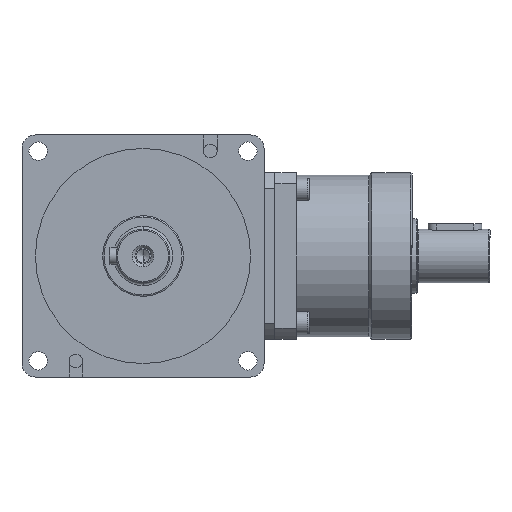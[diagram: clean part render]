
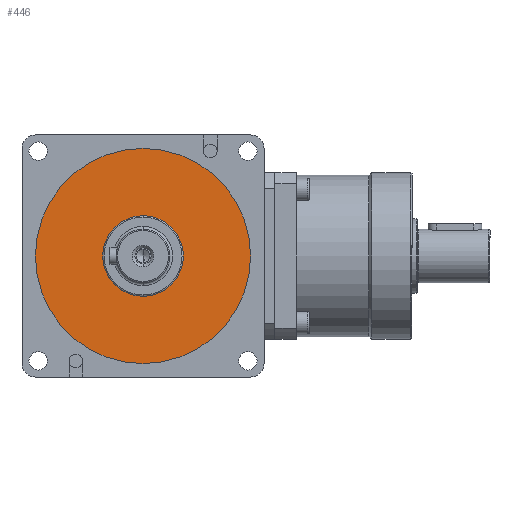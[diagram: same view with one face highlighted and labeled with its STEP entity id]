
A CAD part, left-side view. The second image highlights one B-rep face of the part: STEP entity #446.
In plain terms, the highlighted planar face has unit normal (-1, 0, 0).
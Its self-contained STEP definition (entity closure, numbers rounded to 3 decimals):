
#74 = CARTESIAN_POINT ( 'NONE',  ( -31., 0., 15. ) ) ;
#446 = ADVANCED_FACE ( 'NONE', ( #10385, #6891 ), #11429, .T. ) ;
#1357 = CIRCLE ( 'NONE', #10886, 15. ) ;
#1690 = CIRCLE ( 'NONE', #10034, 15. ) ;
#1885 = DIRECTION ( 'NONE',  ( 0., 0., 1. ) ) ;
#1897 = DIRECTION ( 'NONE',  ( -1., 0., 0. ) ) ;
#1966 = EDGE_CURVE ( 'NONE', #7626, #7889, #1690, .T. ) ;
#1988 = CIRCLE ( 'NONE', #2931, 40. ) ;
#2004 = AXIS2_PLACEMENT_3D ( 'NONE', #4490, #3361, #9108 ) ;
#2062 = DIRECTION ( 'NONE',  ( -1., 0., 0. ) ) ;
#2678 = CARTESIAN_POINT ( 'NONE',  ( -31., 0., -40. ) ) ;
#2931 = AXIS2_PLACEMENT_3D ( 'NONE', #12725, #1897, #11974 ) ;
#3100 = DIRECTION ( 'NONE',  ( 0., 0., 1. ) ) ;
#3272 = AXIS2_PLACEMENT_3D ( 'NONE', #4718, #5924, #3661 ) ;
#3361 = DIRECTION ( 'NONE',  ( -1., 0., 0. ) ) ;
#3661 = DIRECTION ( 'NONE',  ( 0., 0., 1. ) ) ;
#4490 = CARTESIAN_POINT ( 'NONE',  ( -31., 0., 0. ) ) ;
#4718 = CARTESIAN_POINT ( 'NONE',  ( -31., 0., 0. ) ) ;
#4939 = CARTESIAN_POINT ( 'NONE',  ( -31., 0., -15. ) ) ;
#4989 = ORIENTED_EDGE ( 'NONE', *, *, #8537, .F. ) ;
#5470 = ORIENTED_EDGE ( 'NONE', *, *, #13551, .T. ) ;
#5539 = DIRECTION ( 'NONE',  ( -1., 0., 0. ) ) ;
#5924 = DIRECTION ( 'NONE',  ( -1., 0., 0. ) ) ;
#6891 = FACE_OUTER_BOUND ( 'NONE', #13661, .T. ) ;
#7626 = VERTEX_POINT ( 'NONE', #4939 ) ;
#7778 = EDGE_LOOP ( 'NONE', ( #4989, #14025 ) ) ;
#7824 = EDGE_CURVE ( 'NONE', #10781, #7923, #13445, .T. ) ;
#7889 = VERTEX_POINT ( 'NONE', #74 ) ;
#7923 = VERTEX_POINT ( 'NONE', #2678 ) ;
#8537 = EDGE_CURVE ( 'NONE', #7889, #7626, #1357, .T. ) ;
#8708 = CARTESIAN_POINT ( 'NONE',  ( -31., 0., 0. ) ) ;
#9108 = DIRECTION ( 'NONE',  ( 0., 0., 1. ) ) ;
#9861 = CARTESIAN_POINT ( 'NONE',  ( -31., 0., 0. ) ) ;
#10034 = AXIS2_PLACEMENT_3D ( 'NONE', #9861, #5539, #1885 ) ;
#10385 = FACE_BOUND ( 'NONE', #7778, .T. ) ;
#10736 = ORIENTED_EDGE ( 'NONE', *, *, #7824, .T. ) ;
#10781 = VERTEX_POINT ( 'NONE', #13176 ) ;
#10886 = AXIS2_PLACEMENT_3D ( 'NONE', #8708, #2062, #3100 ) ;
#11429 = PLANE ( 'NONE',  #3272 ) ;
#11974 = DIRECTION ( 'NONE',  ( 0., 0., 1. ) ) ;
#12725 = CARTESIAN_POINT ( 'NONE',  ( -31., 0., 0. ) ) ;
#13176 = CARTESIAN_POINT ( 'NONE',  ( -31., 0., 40. ) ) ;
#13445 = CIRCLE ( 'NONE', #2004, 40. ) ;
#13551 = EDGE_CURVE ( 'NONE', #7923, #10781, #1988, .T. ) ;
#13661 = EDGE_LOOP ( 'NONE', ( #10736, #5470 ) ) ;
#14025 = ORIENTED_EDGE ( 'NONE', *, *, #1966, .F. ) ;
